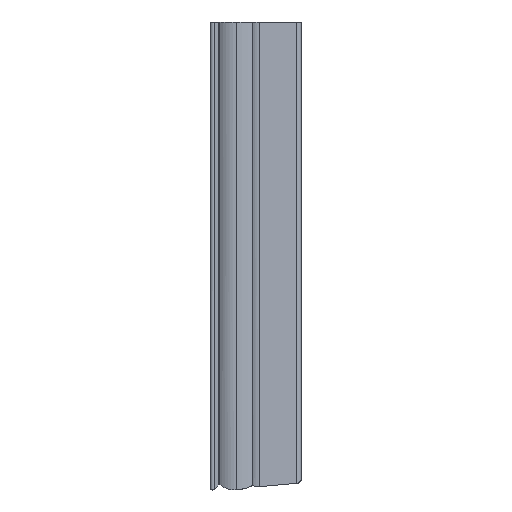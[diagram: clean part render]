
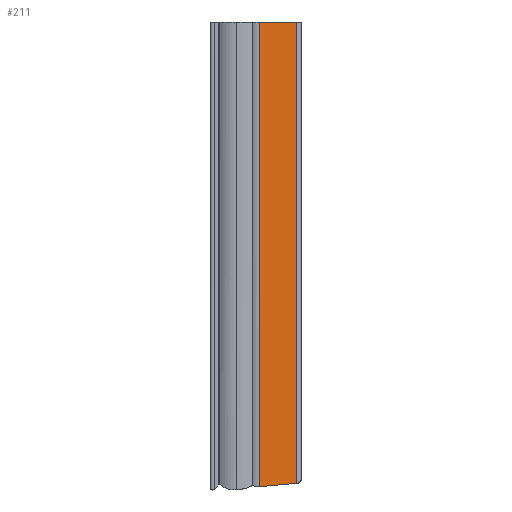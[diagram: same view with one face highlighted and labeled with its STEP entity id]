
A CAD part, left-side view. The second image highlights one B-rep face of the part: STEP entity #211.
In plain terms, the highlighted planar face has unit normal (-0.996, -0.089, 0) as drawn and (0, -0.09, -0.996) by its records, which use the part's own axes.
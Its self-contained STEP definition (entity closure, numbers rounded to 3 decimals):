
#211 = ADVANCED_FACE( '', ( #375 ), #376, .F. );
#375 = FACE_OUTER_BOUND( '', #620, .T. );
#376 = PLANE( '', #621 );
#620 = EDGE_LOOP( '', ( #1074, #1075, #1076, #1077 ) );
#621 = AXIS2_PLACEMENT_3D( '', #1078, #1079, #1080 );
#1074 = ORIENTED_EDGE( '', *, *, #1965, .F. );
#1075 = ORIENTED_EDGE( '', *, *, #1964, .T. );
#1076 = ORIENTED_EDGE( '', *, *, #1966, .T. );
#1077 = ORIENTED_EDGE( '', *, *, #1967, .F. );
#1078 = CARTESIAN_POINT( '', ( 115., -9.446, -4. ) );
#1079 = DIRECTION( '', ( 0., 0.09, 0.996 ) );
#1080 = DIRECTION( '', ( 0., -0.996, 0.09 ) );
#1964 = EDGE_CURVE( '', #2398, #2400, #2402, .T. );
#1965 = EDGE_CURVE( '', #2398, #2403, #2404, .T. );
#1966 = EDGE_CURVE( '', #2400, #2405, #2406, .T. );
#1967 = EDGE_CURVE( '', #2403, #2405, #2407, .T. );
#2398 = VERTEX_POINT( '', #3056 );
#2400 = VERTEX_POINT( '', #3058 );
#2402 = LINE( '', #3060, #3061 );
#2403 = VERTEX_POINT( '', #3062 );
#2404 = LINE( '', #3063, #3064 );
#2405 = VERTEX_POINT( '', #3065 );
#2406 = LINE( '', #3066, #3067 );
#2407 = LINE( '', #3068, #3069 );
#3056 = CARTESIAN_POINT( '', ( 104., -9.446, -4. ) );
#3058 = CARTESIAN_POINT( '', ( 0., -9.446, -4. ) );
#3060 = CARTESIAN_POINT( '', ( 115., -9.446, -4. ) );
#3061 = VECTOR( '', #3768, 1000. );
#3062 = CARTESIAN_POINT( '', ( 104.759, -1.002, -4.759 ) );
#3063 = CARTESIAN_POINT( '', ( 104.088, -8.473, -4.088 ) );
#3064 = VECTOR( '', #3769, 1000. );
#3065 = CARTESIAN_POINT( '', ( 0., -1.002, -4.759 ) );
#3066 = CARTESIAN_POINT( '', ( 0., -9.446, -4. ) );
#3067 = VECTOR( '', #3770, 1000. );
#3068 = CARTESIAN_POINT( '', ( 115., -1.002, -4.759 ) );
#3069 = VECTOR( '', #3771, 1000. );
#3768 = DIRECTION( '', ( -1., 0., 0. ) );
#3769 = DIRECTION( '', ( 0.089, 0.992, -0.089 ) );
#3770 = DIRECTION( '', ( 0., 0.996, -0.09 ) );
#3771 = DIRECTION( '', ( -1., 0., 0. ) );
